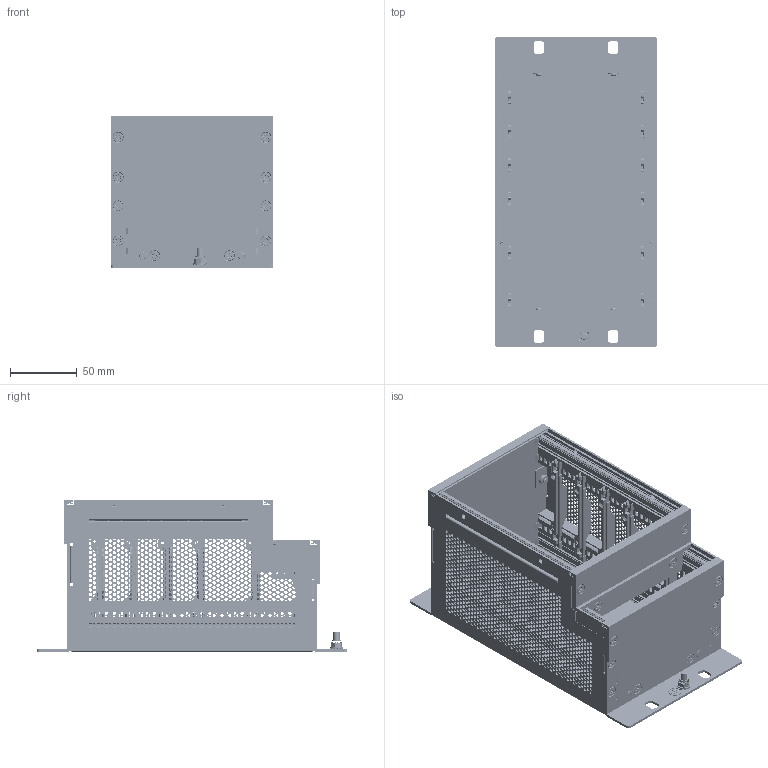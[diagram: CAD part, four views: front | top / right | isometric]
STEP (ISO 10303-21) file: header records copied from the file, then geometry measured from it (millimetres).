
FILE_DESCRIPTION(/* description */ (''),/* implementation_level */ '2;1');
FILE_NAME(/* name */ 'R:\00arbdir\01_Customer files created by request\IO-Bar\R6.6\R6.6_Shw_2021-03-03.stp',/* time_stamp */ '2021-03-03T13:00:29+01:00',/* author */ ('heo'),/* organization */ (''),/* preprocessor_version */ 'ST-DEVELOPER v18.1',/* originating_system */ 'Autodesk Inventor 2020',/* authorisation */ '');
FILE_SCHEMA (('AUTOMOTIVE_DESIGN { 1 0 10303 214 3 1 1 }'));
Products named in the file (1): 1101010056_Shrinkwrap_1
Bounding box: 122 x 233.2 x 113.9 mm (x, y, z)
Volume: 270202.4 mm3; surface area: 325650.5 mm2
Topology: 1 solids, 1 shells, 13078 faces, 35872 edges, 22104 vertices
Faces by surface type: cylinder 5751, plane 5537, bspline 780, sphere 502, torus 298, cone 210
Full cylindrical faces by diameter (mm): 2.5 x2108, 2.7 x2, 3.3 x2, 4 x22, 4.5 x6, 4.7 x12, 5 x1, 5.4 x2, 5.8 x8, 6.45 x6, 6.8 x1, 7.4 x22, 7.9 x6, 8.2 x14, 8.3 x6, 9 x1, 9.8 x1, 10 x1
Entity records: 445542 total; most frequent: CARTESIAN_POINT 93428, DIRECTION 72607, ORIENTED_EDGE 71388, EDGE_CURVE 35694, AXIS2_PLACEMENT_3D 25703, VERTEX_POINT 22104, LINE 21201, VECTOR 21201
